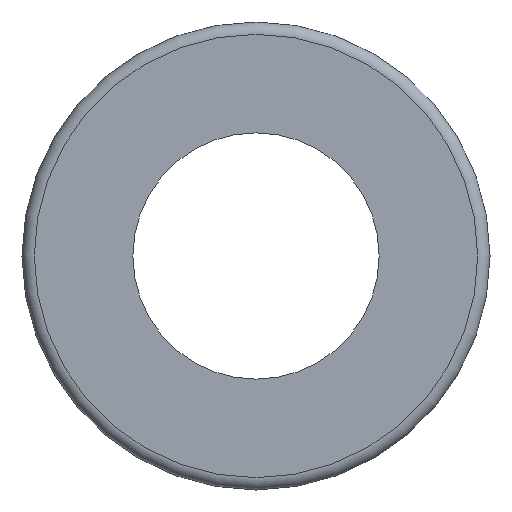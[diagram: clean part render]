
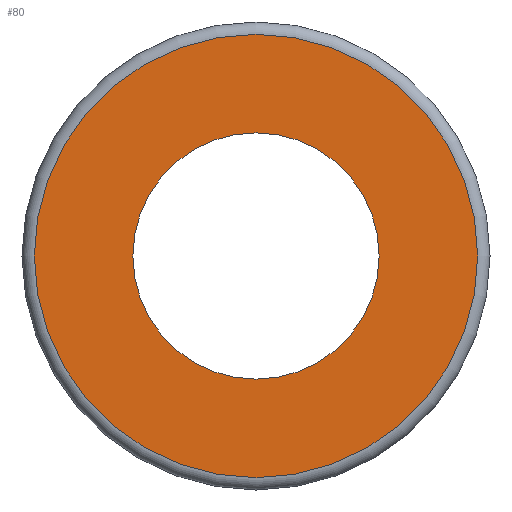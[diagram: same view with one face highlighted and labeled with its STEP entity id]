
A CAD part, left-side view. The second image highlights one B-rep face of the part: STEP entity #80.
In plain terms, the highlighted planar face has unit normal (-1, 0, 0).
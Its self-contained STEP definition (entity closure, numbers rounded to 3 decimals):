
#80=ADVANCED_FACE('',(#105,#106),#107,.T.);
#105=FACE_BOUND('',#147,.T.);
#106=FACE_OUTER_BOUND('',#148,.T.);
#107=PLANE('',#149);
#147=EDGE_LOOP('',(#199));
#148=EDGE_LOOP('',(#200));
#149=AXIS2_PLACEMENT_3D('',#201,#202,#203);
#199=ORIENTED_EDGE('',*,*,#253,.F.);
#200=ORIENTED_EDGE('',*,*,#254,.T.);
#201=CARTESIAN_POINT('',(-14.5,7.0,0.0));
#202=DIRECTION('',(-1.0,0.0,0.0));
#203=DIRECTION('',(0.0,0.0,1.0));
#253=EDGE_CURVE('',#276,#276,#277,.T.);
#254=EDGE_CURVE('',#278,#278,#279,.T.);
#276=VERTEX_POINT('',#304);
#277=CIRCLE('',#305,5.0);
#278=VERTEX_POINT('',#306);
#279=CIRCLE('',#307,9.0);
#304=CARTESIAN_POINT('',(-14.5,5.0,0.0));
#305=AXIS2_PLACEMENT_3D('',#341,#342,#343);
#306=CARTESIAN_POINT('',(-14.5,9.0,0.0));
#307=AXIS2_PLACEMENT_3D('',#344,#345,#346);
#341=CARTESIAN_POINT('',(-14.5,0.0,0.0));
#342=DIRECTION('',(-1.0,0.0,0.0));
#343=DIRECTION('',(0.0,1.0,0.0));
#344=CARTESIAN_POINT('',(-14.5,0.0,0.0));
#345=DIRECTION('',(-1.0,0.0,0.0));
#346=DIRECTION('',(0.0,1.0,0.0));
